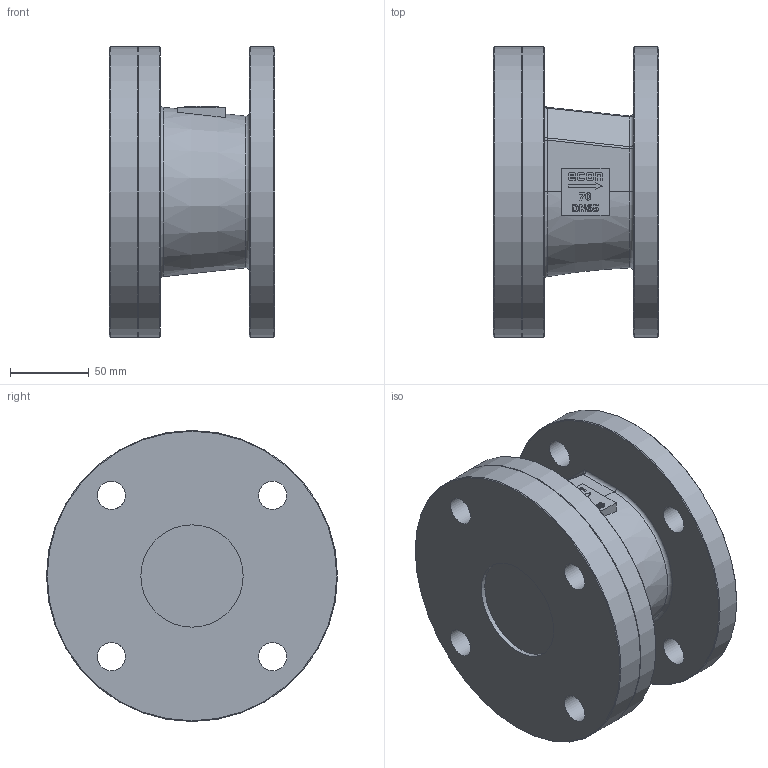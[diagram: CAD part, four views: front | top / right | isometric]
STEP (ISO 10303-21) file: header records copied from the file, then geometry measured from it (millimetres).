
FILE_DESCRIPTION(/* description */ ('Eriks item no: 12160578'),/* implementation_level */ '2;1');
FILE_NAME(/* name */ 'L:\DATA\ENG\Inventor\Econ 3D modellen\terugslagklep\70NGY\70NGY-DN65-PN16-NBR.stp',/* time_stamp */ '2023-12-05T08:14:51+01:00',/* author */ ('roger.thijssen'),/* organization */ (''),/* preprocessor_version */ 'ST-DEVELOPER v18',/* originating_system */ 'Autodesk Inventor 2020',/* authorisation */ '');
FILE_SCHEMA (('CONFIG_CONTROL_DESIGN'));
Length unit declared in the file: millimetre
Products named in the file (1): Check valve, 70NGY-DN65-PN16-NBR
Bounding box: 105 x 185 x 185 mm (x, y, z)
Volume: 1738396.3 mm3; surface area: 144689 mm2
Topology: 1 solids, 1 shells, 217 faces, 577 edges, 380 vertices
Faces by surface type: plane 108, bspline 60, cylinder 40, cone 7, torus 2
Full cylindrical faces by diameter (mm): 18 x8, 65 x2, 185 x3
Entity records: 7432 total; most frequent: CARTESIAN_POINT 2201, ORIENTED_EDGE 1154, DIRECTION 900, EDGE_CURVE 577, VERTEX_POINT 380, LINE 356, VECTOR 356, AXIS2_PLACEMENT_3D 272
